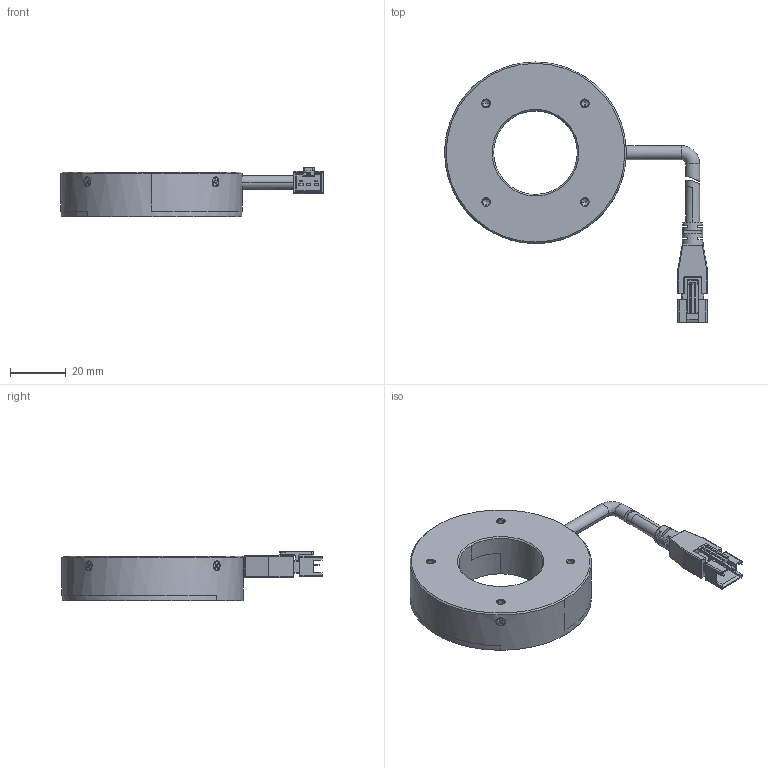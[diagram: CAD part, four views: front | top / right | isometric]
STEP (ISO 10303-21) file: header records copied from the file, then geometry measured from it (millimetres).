
FILE_DESCRIPTION((''),'2;1');
FILE_NAME('MV-LRDS-65-90-X_ASM','2023-09-15T11:58:51',('qiaoxuan5'),(''),'CREO PARAMETRIC BY PTC INC, 2020044','CREO PARAMETRIC BY PTC INC, 2020044','');
FILE_SCHEMA(('CONFIG_CONTROL_DESIGN','SHAPE_APPEARANCE_LAYERS_GROUPS'));
Length unit declared in the file: millimetre
Products named in the file (1): MV-LRDS-65-90-X_ASM
Bounding box: 94.05 x 93.16 x 17.7 mm (x, y, z)
Volume: 41694.1 mm3; surface area: 19300.5 mm2
Topology: 2 solids, 6 shells, 512 faces, 1316 edges, 817 vertices
Faces by surface type: plane 275, cylinder 151, cone 58, torus 10, sphere 8, bspline 8, extrusion 2
Entity records: 17600 total; most frequent: CARTESIAN_POINT 4279, ORIENTED_EDGE 2584, DIRECTION 2574, EDGE_CURVE 1292, AXIS2_PLACEMENT_3D 880, VERTEX_POINT 817, VECTOR 814, LINE 812
